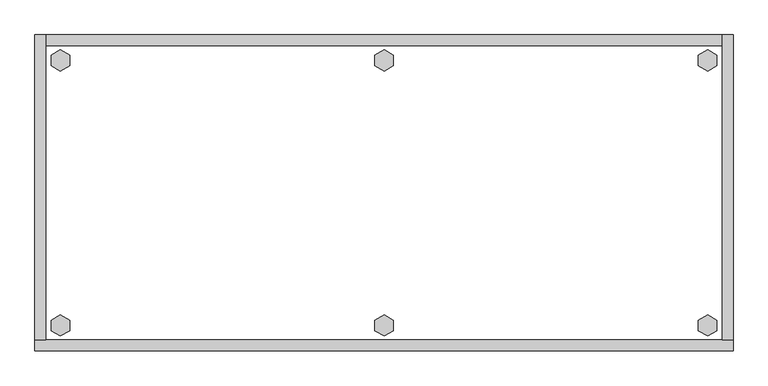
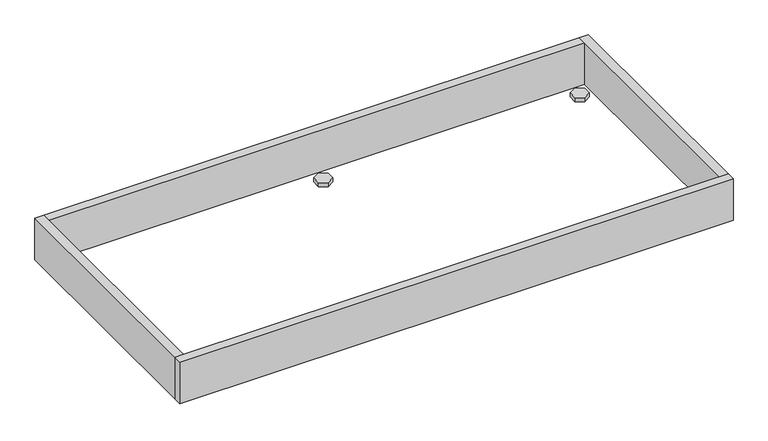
"""IFC4 building model written with IfcOpenShell, lengths in millimetres: furniture geometry, HermanMiller_Mora_CH250_PlinthBaseFinished : Flush on Both/Inline HPL 24D 48W."""

from ifc_helpers import new_model, si_unit, frame, origin, origin_with_axes, place, context, project, spatial, polyline, outline, extrude, source, transform, mapped, element, save


def furniture_ceff2c2c(model_context):
    return source(origin(), model_context, "Body", "SweptSolid", [
        extrude(outline(polyline([(1158.5735422, -498.8179), (1174.5214, -489.6104), (1190.4692578, -498.8179), (1190.4692578, -517.2329), (1174.5214, -526.4404), (1158.5735422, -517.2329), (1158.5735422, -498.8179)])), origin_with_axes(), (0.0, 0.0, 1.0), 9.144),
        extrude(outline(polyline([(1158.5735422, -35.4711), (1174.5214, -26.2636), (1190.4692578, -35.4711), (1190.4692578, -53.8861), (1174.5214, -63.0936), (1158.5735422, -53.8861), (1158.5735422, -35.4711)])), origin_with_axes(), (0.0, 0.0, 1.0), 9.144),
        extrude(outline(polyline([(593.6521422, -498.8179), (609.6, -489.6104), (625.5478578, -498.8179), (625.5478578, -517.2329), (609.6, -526.4404), (593.6521422, -517.2329), (593.6521422, -498.8179)])), origin_with_axes(), (0.0, 0.0, 1.0), 9.144),
        extrude(outline(polyline([(593.6521422, -35.4711), (609.6, -26.2636), (625.5478578, -35.4711), (625.5478578, -53.8861), (609.6, -63.0936), (593.6521422, -53.8861), (593.6521422, -35.4711)])), origin_with_axes(), (0.0, 0.0, 1.0), 9.144),
        extrude(outline(polyline([(28.7307422, -498.8179), (44.6786, -489.6104), (60.6264578, -498.8179), (60.6264578, -517.2329), (44.6786, -526.4404), (28.7307422, -517.2329), (28.7307422, -498.8179)])), origin_with_axes(), (0.0, 0.0, 1.0), 9.144),
        extrude(outline(polyline([(28.7307422, -35.4711), (44.6786, -26.2636), (60.6264578, -35.4711), (60.6264578, -53.8861), (44.6786, -63.0936), (28.7307422, -53.8861), (28.7307422, -35.4711)])), origin_with_axes(), (0.0, 0.0, 1.0), 9.144),
        extrude(outline(polyline([(19.304, 0.0), (19.304, -533.4), (0.0, -533.4), (0.0, 0.0), (19.304, 0.0)])), frame((0.0, 0.0, 4.699), z_axis=(0.0, 0.0, 1.0), x_axis=(1.0, 0.0, 0.0)), (0.0, 0.0, 1.0), 96.901),
        extrude(outline(polyline([(1219.2, 0.0), (1219.2, -533.4), (1199.896, -533.4), (1199.896, 0.0), (1219.2, 0.0)])), frame((0.0, 0.0, 4.699), z_axis=(0.0, 0.0, 1.0), x_axis=(1.0, 0.0, 0.0)), (0.0, 0.0, 1.0), 96.901),
        extrude(outline(polyline([(1199.896, -19.304), (19.304, -19.304), (19.304, 0.0), (1199.896, 0.0), (1199.896, -19.304)])), frame((0.0, 0.0, 4.699), z_axis=(0.0, 0.0, 1.0), x_axis=(1.0, 0.0, 0.0)), (0.0, 0.0, 1.0), 96.901),
        extrude(outline(polyline([(1219.2, -533.4), (1219.2, -552.704), (0.0, -552.704), (0.0, -533.4), (1219.2, -533.4)])), frame((0.0, 0.0, 4.699), z_axis=(0.0, 0.0, 1.0), x_axis=(1.0, 0.0, 0.0)), (0.0, 0.0, 1.0), 96.901),
    ])


if __name__ == "__main__":
    model = new_model("IFC4")
    model_context = context("Model", 3, world=origin())
    ifc_project = project(units=[si_unit("LENGTHUNIT", "METRE", prefix="MILLI")], contexts=[model_context])
    site = spatial("IfcSite", under=ifc_project)
    building = spatial("IfcBuilding", under=site)
    placement = place(None, origin())
    furniture_shape = furniture_ceff2c2c(model_context)
    element("IfcFurniture", 1, ObjectType="HermanMiller_Mora_CH250_PlinthBaseFinished : Flush on Both/Inline HPL 24D 48W", at=placement, inside=building, context=model_context, shape_type="MappedRepresentation", body=[
        mapped(furniture_shape, transform((0.0, 0.0, 0.0), x_axis=(1.0, 0.0, 0.0), y_axis=(0.0, 1.0, 0.0), z_axis=(0.0, 0.0, 1.0))),
    ])
    save(model, "model.ifc")
